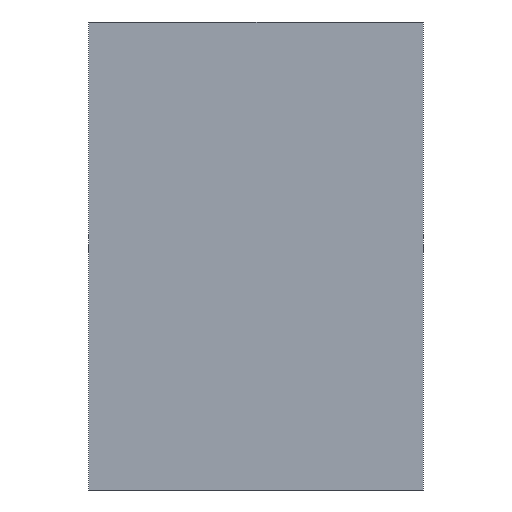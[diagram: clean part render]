
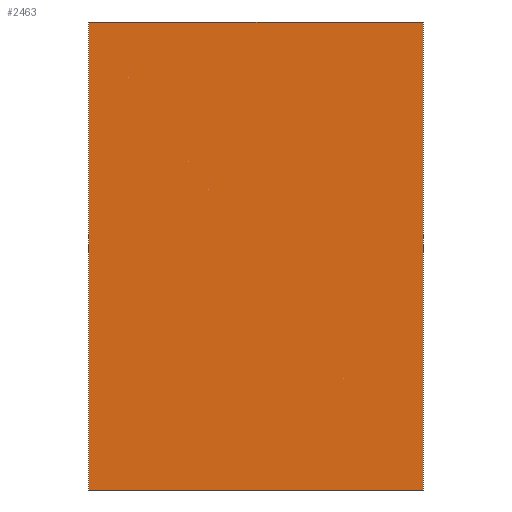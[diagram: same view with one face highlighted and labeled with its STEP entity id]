
A CAD part, front view. The second image highlights one B-rep face of the part: STEP entity #2463.
In plain terms, the highlighted planar face has unit normal (0, -1, 0).
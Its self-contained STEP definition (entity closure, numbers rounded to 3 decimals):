
#112=DIRECTION('',(0.,0.,1.));
#113=VECTOR('',#112,175.);
#114=CARTESIAN_POINT('',(-62.5,0.,-80.));
#115=LINE('',#114,#113);
#116=DIRECTION('',(1.,0.,0.));
#117=VECTOR('',#116,125.);
#118=CARTESIAN_POINT('',(-62.5,0.,95.));
#119=LINE('',#118,#117);
#120=DIRECTION('',(0.,0.,-1.));
#121=VECTOR('',#120,175.);
#122=CARTESIAN_POINT('',(62.5,0.,95.));
#123=LINE('',#122,#121);
#124=DIRECTION('',(-1.,0.,0.));
#125=VECTOR('',#124,125.);
#126=CARTESIAN_POINT('',(62.5,0.,-80.));
#127=LINE('',#126,#125);
#1858=CARTESIAN_POINT('',(-62.5,0.,-80.));
#1859=CARTESIAN_POINT('',(-62.5,0.,95.));
#1860=VERTEX_POINT('',#1858);
#1861=VERTEX_POINT('',#1859);
#1862=CARTESIAN_POINT('',(62.5,0.,95.));
#1863=CARTESIAN_POINT('',(62.5,0.,-80.));
#1864=VERTEX_POINT('',#1862);
#1865=VERTEX_POINT('',#1863);
#2450=CARTESIAN_POINT('',(0.,0.,0.));
#2451=DIRECTION('',(0.,1.,0.));
#2452=DIRECTION('',(1.,0.,0.));
#2453=AXIS2_PLACEMENT_3D('',#2450,#2451,#2452);
#2454=PLANE('',#2453);
#2455=ORIENTED_EDGE('',*,*,#2441,.T.);
#2457=ORIENTED_EDGE('',*,*,#2456,.T.);
#2459=ORIENTED_EDGE('',*,*,#2458,.T.);
#2460=ORIENTED_EDGE('',*,*,#2429,.T.);
#2461=EDGE_LOOP('',(#2455,#2457,#2459,#2460));
#2462=FACE_OUTER_BOUND('',#2461,.F.);
#2463=ADVANCED_FACE('',(#2462),#2454,.F.);
#2429=EDGE_CURVE('',#1865,#1860,#127,.T.);
#2441=EDGE_CURVE('',#1860,#1861,#115,.T.);
#2456=EDGE_CURVE('',#1861,#1864,#119,.T.);
#2458=EDGE_CURVE('',#1864,#1865,#123,.T.);
